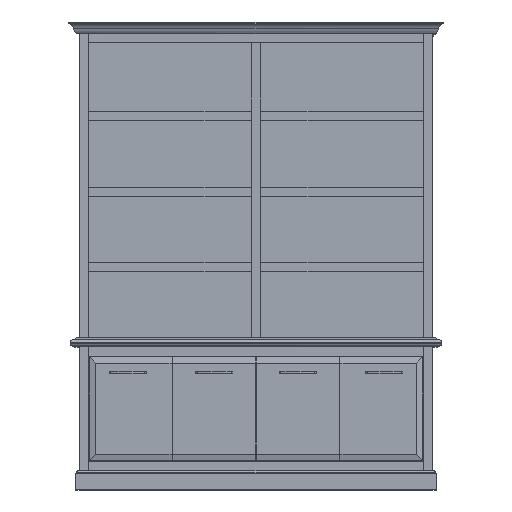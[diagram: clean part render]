
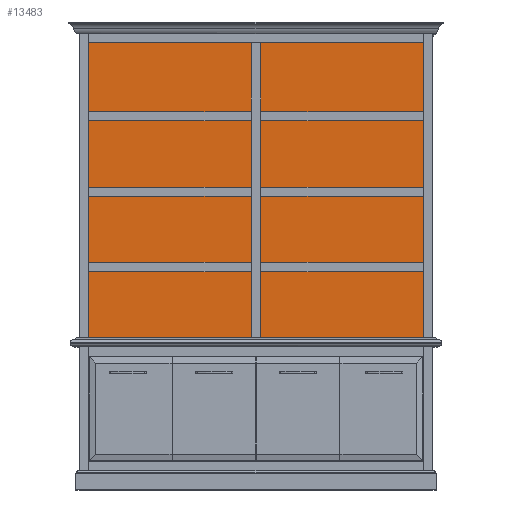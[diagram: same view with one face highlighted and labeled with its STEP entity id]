
A CAD part, top view. The second image highlights one B-rep face of the part: STEP entity #13483.
In plain terms, the highlighted planar face has unit normal (0, 0, 1).
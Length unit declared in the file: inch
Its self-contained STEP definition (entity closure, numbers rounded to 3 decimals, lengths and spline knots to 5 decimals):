
#2165=FACE_OUTER_BOUND('',#2933,.T.);
#2933=EDGE_LOOP('',(#9475,#9476,#9477,#9478));
#3829=LINE('',#19382,#5239);
#3832=LINE('',#19388,#5242);
#3835=LINE('',#19394,#5245);
#3838=LINE('',#19398,#5248);
#5239=VECTOR('',#15757,0.3937);
#5242=VECTOR('',#15762,0.3937);
#5245=VECTOR('',#15767,0.3937);
#5248=VECTOR('',#15772,0.3937);
#6649=VERTEX_POINT('',#19379);
#6650=VERTEX_POINT('',#19381);
#6652=VERTEX_POINT('',#19387);
#6654=VERTEX_POINT('',#19393);
#7765=EDGE_CURVE('',#6650,#6649,#3829,.T.);
#7768=EDGE_CURVE('',#6652,#6650,#3832,.T.);
#7771=EDGE_CURVE('',#6654,#6652,#3835,.T.);
#7774=EDGE_CURVE('',#6649,#6654,#3838,.T.);
#9475=ORIENTED_EDGE('',*,*,#7774,.T.);
#9476=ORIENTED_EDGE('',*,*,#7771,.T.);
#9477=ORIENTED_EDGE('',*,*,#7768,.T.);
#9478=ORIENTED_EDGE('',*,*,#7765,.T.);
#12855=PLANE('',#14648);
#13483=ADVANCED_FACE('',(#2165),#12855,.T.);
#14648=AXIS2_PLACEMENT_3D('',#19399,#15773,#15774);
#15757=DIRECTION('',(1.,0.,0.));
#15762=DIRECTION('',(0.,-1.,0.));
#15767=DIRECTION('',(-1.,0.,0.));
#15772=DIRECTION('',(0.,1.,0.));
#15773=DIRECTION('center_axis',(0.,0.,1.));
#15774=DIRECTION('ref_axis',(1.,0.,0.));
#19379=CARTESIAN_POINT('',(66.,0.,0.75));
#19381=CARTESIAN_POINT('',(0.,0.,0.75));
#19382=CARTESIAN_POINT('',(0.,0.,0.75));
#19387=CARTESIAN_POINT('',(0.,88.25,0.75));
#19388=CARTESIAN_POINT('',(0.,88.25,0.75));
#19393=CARTESIAN_POINT('',(66.,88.25,0.75));
#19394=CARTESIAN_POINT('',(66.,88.25,0.75));
#19398=CARTESIAN_POINT('',(66.,0.,0.75));
#19399=CARTESIAN_POINT('Origin',(33.,44.125,0.75));
